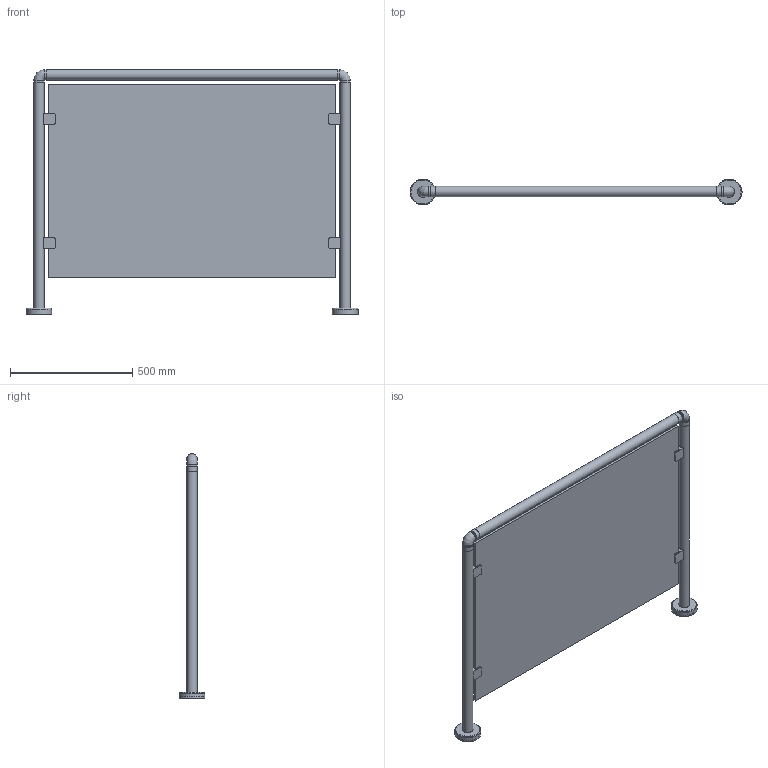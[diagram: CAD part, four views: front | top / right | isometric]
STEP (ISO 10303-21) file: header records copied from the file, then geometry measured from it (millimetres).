
FILE_DESCRIPTION(/* description */ ('Unknown'),/* implementation_level */ '2;1');
FILE_NAME(/* name */ '55870016_00',/* time_stamp */ '2023-03-13T13:29:30+01:00',/* author */ ('Unknown'),/* organization */ ('Unknown'),/* preprocessor_version */ 'ST-DEVELOPER v18.102',/* originating_system */ 'Solid Edge',/* authorisation */ 'Unknown');
FILE_SCHEMA (('AUTOMOTIVE_DESIGN {1 0 10303 214 3 1 1}'));
Length unit declared in the file: millimetre
Products named in the file (8): 55870016; 20500010; 20500010a; 20500010b; 20500010d; 20500010c; 20520153; 20160199
Assembly tree (9 placements, depth 3):
  55870016
    20500010  x2
      20500010a
      20500010b
      20500010d
      20500010c
    20520153
    20160199
Bounding box: 1356.7 x 105 x 1000 mm (x, y, z)
Volume: 10416876.6 mm3; surface area: 2861924.7 mm2
Topology: 12 solids, 12 shells, 262 faces, 652 edges, 432 vertices
Faces by surface type: plane 142, cylinder 112, torus 8
Full cylindrical faces by diameter (mm): 6.647 x4, 9 x4, 15 x4, 35 x4, 38.4 x7, 42.4 x7, 44 x2, 101 x2, 105 x2
Entity records: 3590 total; most frequent: CARTESIAN_POINT 534, DIRECTION 522, ORIENTED_EDGE 432, EDGE_CURVE 216, AXIS2_PLACEMENT_3D 200, VERTEX_POINT 156, EDGE_LOOP 150, FACE_BOUND 150
